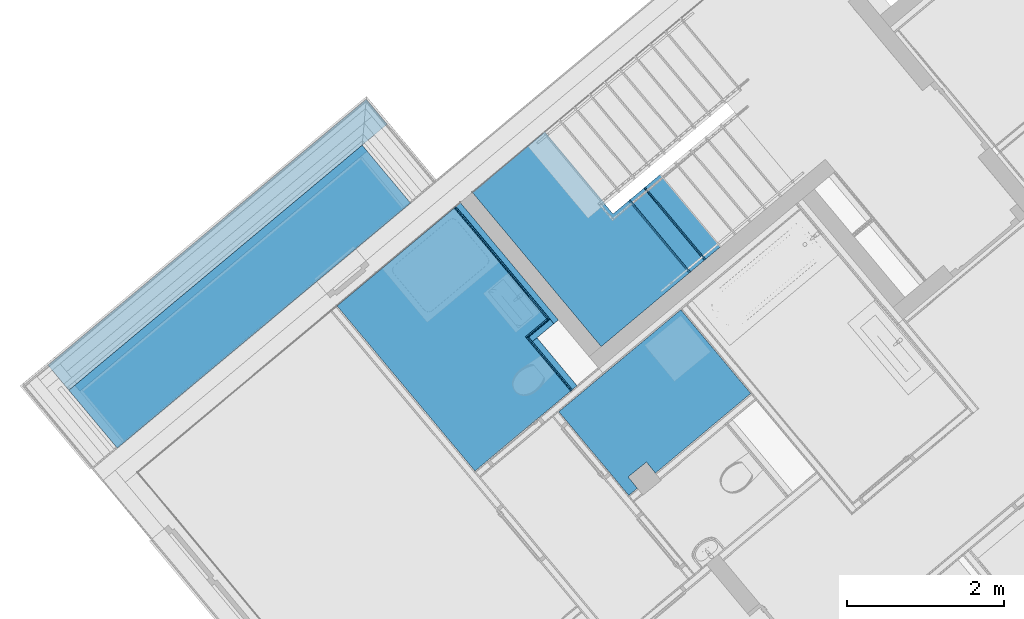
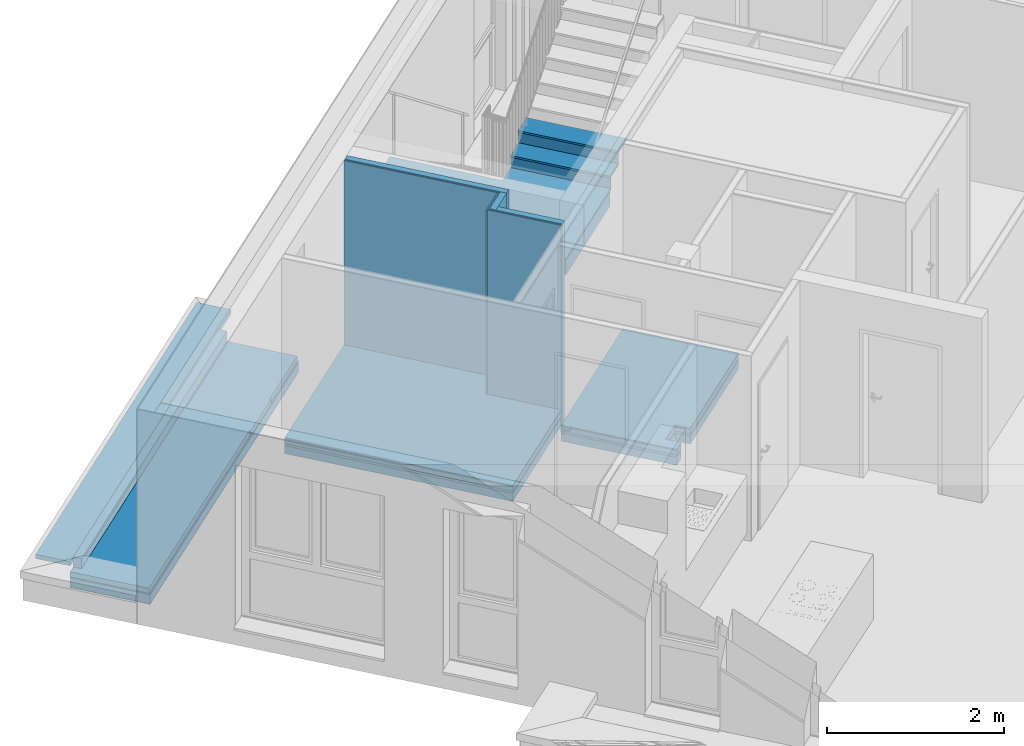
# One storey, part 26 of 61: 29 building element parts, 8 elements without a shape of their own.
"""IFC4 building model written with IfcOpenShell, lengths in metres."""

from ifc_helpers import new_model, entity, si_unit, converted_unit, derived_unit, direction, frame, origin_with_axes, place, context, subcontext, project, spatial, polygons, material, type_object, element, aggregate, save


model = new_model("IFC4")

# Units and contexts
model_context = context("Model", 3, precision=1e-05, world=origin_with_axes(), true_north=direction((0.0, 1.0)))
body_context = subcontext(model_context, "Body", "Model", "MODEL_VIEW")
ifc_project = project(units=[si_unit("LENGTHUNIT", "METRE"), si_unit("AREAUNIT", "SQUARE_METRE"), si_unit("VOLUMEUNIT", "CUBIC_METRE"), converted_unit("PLANEANGLEUNIT", "DEGREE", entity("IfcPlaneAngleMeasure", 0.0174532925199), si_unit("PLANEANGLEUNIT", "RADIAN"), dimensions=[0, 0, 0, 0, 0, 0, 0]), converted_unit("TIMEUNIT", "Year", entity("IfcTimeMeasure", 31556926.0), si_unit("TIMEUNIT", "SECOND"), dimensions=[0, 0, 1, 0, 0, 0, 0]), si_unit("MASSUNIT", "GRAM", prefix="KILO"), si_unit("THERMODYNAMICTEMPERATUREUNIT", "DEGREE_CELSIUS"), si_unit("LUMINOUSINTENSITYUNIT", "LUMEN"), si_unit("ENERGYUNIT", "JOULE", prefix="MEGA"), derived_unit("THERMALCONDUCTANCEUNIT", [(si_unit("POWERUNIT", "WATT"), 1), (si_unit("LENGTHUNIT", "METRE"), -1), (si_unit("THERMODYNAMICTEMPERATUREUNIT", "KELVIN"), -1)]), derived_unit("SPECIFICHEATCAPACITYUNIT", [(si_unit("ENERGYUNIT", "JOULE"), 1), (si_unit("MASSUNIT", "GRAM", prefix="KILO"), -1), (si_unit("THERMODYNAMICTEMPERATUREUNIT", "KELVIN"), -1)]), derived_unit("MASSDENSITYUNIT", [(si_unit("MASSUNIT", "GRAM", prefix="KILO"), 1), (si_unit("VOLUMEUNIT", "CUBIC_METRE"), -1)])], contexts=[model_context])

# Site, building, storey
site_placement = place(None, frame((-0.00153261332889, -0.00661245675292, 0.0), z_axis=(0.0, 0.0, 1.0), x_axis=(1.0, 0.0, 0.0)))
site = spatial("IfcSite", under=ifc_project, at=site_placement, Name="Gelände", CompositionType="ELEMENT")
building_placement = place(site_placement, origin_with_axes())
building = spatial("IfcBuilding", under=site, at=building_placement, Name="Gebäude", CompositionType="ELEMENT")
storey_placement = place(building_placement, frame((0.0, 0.0, 5.7), z_axis=(0.0, 0.0, 1.0), x_axis=(1.0, 0.0, 0.0)))
storey = spatial("IfcBuildingStorey", under=building, at=storey_placement, Name="DG1", CompositionType="ELEMENT", Elevation=5.7)

# Wall, building element parts
wall_type_1 = type_object("IfcWallType", Name="LB 10,5 cm doppelte Vorsatzschale Bad 105", PredefinedType="NOTDEFINED")
wall_1_placement = place(storey_placement, frame((-3.007781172, 20.6786353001, 0.0), z_axis=(0.0, 0.0, 1.0), x_axis=(0.641209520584, -0.767365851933, 0.0)))
wall_1 = element("IfcWall", 1, at=wall_1_placement, inside=storey, type_object=wall_type_1, Name="Wand-004", PredefinedType="NOTDEFINED")
ifc_material_1 = material(Name="Mineralwolle weich")
building_element_part_1_placement = place(wall_1_placement, origin_with_axes())
building_element_part_1 = element("IfcBuildingElementPart", 2, at=building_element_part_1_placement, material=ifc_material_1, Name="Mineralwolle weich", PredefinedType="NOTDEFINED", context=body_context, shape_type="Tessellation", body=[
    polygons([(0.795549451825, 0.0, 2.76), (0.0, 0.0, 2.76), (0.0, -0.075, 2.76), (0.795584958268, -0.075, 2.76), (0.795549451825, 0.0, 0.0), (0.0, 0.0, 0.0), (0.0, -0.075, 0.0), (0.795584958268, -0.075, 0.0)], [[[1, 2, 3, 4]], [[5, 6, 2, 1]], [[3, 2, 6, 7]], [[4, 3, 7, 8]], [[4, 8, 5, 1]], [[8, 7, 6, 5]]], closed=True),
])
ifc_material_2 = material(Name="Gipskarton")
building_element_part_2_placement = place(wall_1_placement, origin_with_axes())
building_element_part_2 = element("IfcBuildingElementPart", 3, at=building_element_part_2_placement, material=ifc_material_2, Name="Gipskarton", PredefinedType="NOTDEFINED", context=body_context, shape_type="Tessellation", body=[
    polygons([(0.795584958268, -0.075, 2.76), (-0.0750000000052, -0.075, 2.76), (-0.0750000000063, -0.09, 2.76), (0.795592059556, -0.09, 2.76), (0.795584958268, -0.075, 0.0), (-0.0750000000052, -0.075, 0.0), (-0.0750000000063, -0.09, 0.0), (0.795592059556, -0.09, 0.0)], [[[1, 2, 3, 4]], [[5, 6, 2, 1]], [[3, 2, 6, 7]], [[4, 3, 7, 8]], [[4, 8, 5, 1]], [[8, 7, 6, 5]]], closed=True),
])
building_element_part_3_placement = place(wall_1_placement, origin_with_axes())
building_element_part_3 = element("IfcBuildingElementPart", 4, at=building_element_part_3_placement, material=ifc_material_2, Name="Gipskarton", PredefinedType="NOTDEFINED", context=body_context, shape_type="Tessellation", body=[
    polygons([(0.795592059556, -0.09, 2.76), (-0.0900000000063, -0.09, 2.76), (-0.0900000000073, -0.105, 2.76), (0.795599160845, -0.105, 2.76), (0.795592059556, -0.09, 0.0), (-0.0900000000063, -0.09, 0.0), (-0.0900000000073, -0.105, 0.0), (0.795599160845, -0.105, 0.0)], [[[1, 2, 3, 4]], [[5, 6, 2, 1]], [[3, 2, 6, 7]], [[4, 3, 7, 8]], [[4, 8, 5, 1]], [[8, 7, 6, 5]]], closed=True),
])
aggregate(wall_1, [building_element_part_1, building_element_part_2, building_element_part_3])

wall_2_placement = place(storey_placement, frame((-2.73492476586, 20.9066336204, 0.0), z_axis=(0.0, 0.0, 1.0), x_axis=(-0.767365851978, -0.64120952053, 0.0)))
wall_2 = element("IfcWall", 5, at=wall_2_placement, inside=storey, type_object=wall_type_1, Name="Wand-004", PredefinedType="NOTDEFINED")
building_element_part_4_placement = place(wall_2_placement, origin_with_axes())
building_element_part_4 = element("IfcBuildingElementPart", 6, at=building_element_part_4_placement, material=ifc_material_1, Name="Mineralwolle weich", PredefinedType="NOTDEFINED", context=body_context, shape_type="Tessellation", body=[
    polygons([(0.430575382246, 0.0, 2.76), (0.075, 0.0, 2.76), (0.0750000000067, -0.075, 2.76), (0.430575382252, -0.075, 2.76), (0.430575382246, 0.0, 0.0), (0.075, 0.0, 0.0), (0.0750000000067, -0.075, 0.0), (0.430575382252, -0.075, 0.0)], [[[1, 2, 3, 4]], [[5, 6, 2, 1]], [[3, 2, 6, 7]], [[4, 3, 7, 8]], [[4, 8, 5, 1]], [[8, 7, 6, 5]]], closed=True),
])
building_element_part_5_placement = place(wall_2_placement, origin_with_axes())
building_element_part_5 = element("IfcBuildingElementPart", 7, at=building_element_part_5_placement, material=ifc_material_2, Name="Gipskarton", PredefinedType="NOTDEFINED", context=body_context, shape_type="Tessellation", body=[
    polygons([(0.445575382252, -0.075, 2.76), (0.0900000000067, -0.075, 2.76), (0.090000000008, -0.09, 2.76), (0.445575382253, -0.09, 2.76), (0.445575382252, -0.075, 0.0), (0.0900000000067, -0.075, 0.0), (0.090000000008, -0.09, 0.0), (0.445575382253, -0.09, 0.0)], [[[1, 2, 3, 4]], [[5, 6, 2, 1]], [[3, 2, 6, 7]], [[4, 3, 7, 8]], [[4, 8, 5, 1]], [[8, 7, 6, 5]]], closed=True),
])
building_element_part_6_placement = place(wall_2_placement, origin_with_axes())
building_element_part_6 = element("IfcBuildingElementPart", 8, at=building_element_part_6_placement, material=ifc_material_2, Name="Gipskarton", PredefinedType="NOTDEFINED", context=body_context, shape_type="Tessellation", body=[
    polygons([(0.460575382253, -0.09, 2.76), (0.105000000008, -0.09, 2.76), (0.105000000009, -0.105, 2.76), (0.460575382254, -0.105, 2.76), (0.460575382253, -0.09, 0.0), (0.105000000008, -0.09, 0.0), (0.105000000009, -0.105, 0.0), (0.460575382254, -0.105, 0.0)], [[[1, 2, 3, 4]], [[5, 6, 2, 1]], [[3, 2, 6, 7]], [[4, 3, 7, 8]], [[4, 8, 5, 1]], [[8, 7, 6, 5]]], closed=True),
])
aggregate(wall_2, [building_element_part_4, building_element_part_5, building_element_part_6])

wall_3_placement = place(storey_placement, frame((-4.2513787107, 22.721445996, 0.0), z_axis=(0.0, 0.0, 1.0), x_axis=(0.641209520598, -0.767365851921, 0.0)))
wall_3 = element("IfcWall", 9, at=wall_3_placement, inside=storey, type_object=wall_type_1, Name="Wand-004", PredefinedType="NOTDEFINED")
building_element_part_7_placement = place(wall_3_placement, origin_with_axes())
building_element_part_7 = element("IfcBuildingElementPart", 10, at=building_element_part_7_placement, material=ifc_material_1, Name="Mineralwolle weich", PredefinedType="NOTDEFINED", context=body_context, shape_type="Tessellation", body=[
    polygons([(2.3649897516, 0.0, 2.76), (0.419999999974, 0.0, 2.76), (0.419999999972, -0.075, 2.76), (2.3649897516, -0.075, 2.76), (2.3649897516, 0.0, 0.0), (0.419999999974, 0.0, 0.0), (0.419999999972, -0.075, 0.0), (2.3649897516, -0.075, 0.0)], [[[1, 2, 3, 4]], [[5, 6, 2, 1]], [[3, 2, 6, 7]], [[4, 3, 7, 8]], [[4, 8, 5, 1]], [[8, 7, 6, 5]]], closed=True),
])
building_element_part_8_placement = place(wall_3_placement, origin_with_axes())
building_element_part_8 = element("IfcBuildingElementPart", 11, at=building_element_part_8_placement, material=ifc_material_2, Name="Gipskarton", PredefinedType="NOTDEFINED", context=body_context, shape_type="Tessellation", body=[
    polygons([(2.2899897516, -0.075, 2.76), (0.419999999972, -0.075, 2.76), (0.419999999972, -0.09, 2.76), (2.2899897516, -0.09, 2.76), (2.2899897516, -0.075, 0.0), (0.419999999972, -0.075, 0.0), (0.419999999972, -0.09, 0.0), (2.2899897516, -0.09, 0.0)], [[[1, 2, 3, 4]], [[5, 6, 2, 1]], [[3, 2, 6, 7]], [[4, 3, 7, 8]], [[4, 8, 5, 1]], [[8, 7, 6, 5]]], closed=True),
])
building_element_part_9_placement = place(wall_3_placement, origin_with_axes())
building_element_part_9 = element("IfcBuildingElementPart", 12, at=building_element_part_9_placement, material=ifc_material_2, Name="Gipskarton", PredefinedType="NOTDEFINED", context=body_context, shape_type="Tessellation", body=[
    polygons([(2.2749897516, -0.09, 2.76), (0.419999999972, -0.09, 2.76), (0.419999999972, -0.105, 2.76), (2.27498975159, -0.105, 2.76), (2.2749897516, -0.09, 0.0), (0.419999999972, -0.09, 0.0), (0.419999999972, -0.105, 0.0), (2.27498975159, -0.105, 0.0)], [[[1, 2, 3, 4]], [[5, 6, 2, 1]], [[3, 2, 6, 7]], [[4, 3, 7, 8]], [[4, 8, 5, 1]], [[8, 7, 6, 5]]], closed=True),
])
aggregate(wall_3, [building_element_part_7, building_element_part_8, building_element_part_9])

# Space
space_placement = place(storey_placement, frame((0.280300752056, 22.6307267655, 0.22), z_axis=(0.0, 0.0, 1.0), x_axis=(-0.641244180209, 0.767336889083, 0.0)))
space = spatial("IfcSpace", under=storey, at=space_placement, CompositionType="ELEMENT", PredefinedType="NOTDEFINED")

# Stair, building element parts
stair_type = type_object("IfcStairType", Name="Treppentyp", PredefinedType="NOTDEFINED")
stair_placement = place(space_placement, frame((2.55980055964, -0.50704333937, -0.17), z_axis=(0.0, 0.0, 1.0), x_axis=(-0.641244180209, -0.767336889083, 0.0)))
stair = element("IfcStair", 13, at=stair_placement, inside=space, type_object=stair_type, Name="Treppe - 001", PredefinedType="NOTDEFINED")
ifc_material_3 = material(Name="Stahlbeton Decke")
building_element_part_10_placement = place(stair_placement, origin_with_axes())
building_element_part_10 = element("IfcBuildingElementPart", 14, at=building_element_part_10_placement, material=ifc_material_3, Name="Stahlbeton Decke", PredefinedType="NOTDEFINED", context=body_context, shape_type="Tessellation", body=[
    polygons([(-0.0995859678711, -3.41907180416, 1.54558823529), (-0.0995859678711, -3.41907180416, 1.74558823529), (-1.21798601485, -4.3536048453, 1.74558823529), (-1.21798601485, -4.3536048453, 1.54558823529), (-0.869037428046, -2.49823278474, 1.74558823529), (-0.869037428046, -2.49823278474, 1.54558823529), (-1.06659845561, -2.66331440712, 1.74558823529), (-1.16916165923, -2.5405721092, 1.74558823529), (-1.18404787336, -2.55300972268, 1.74558823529), (-1.95345217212, -1.63213131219, 1.74558823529), (-2.85949147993, -2.38913738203, 1.74558823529), (-2.85949147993, -2.38913738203, 1.54558823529), (-1.93419043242, -1.61603796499, 1.54558823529), (-1.16478618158, -2.53691636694, 1.54558823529), (-1.16916165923, -2.5405721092, 1.54558823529), (-1.06659845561, -2.66331440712, 1.54558823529), (-1.16916165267, -2.54057211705, 1.56852941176), (-1.18404787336, -2.55300972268, 1.56852941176), (-1.95345217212, -1.63213131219, 1.56852941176), (-1.93419043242, -1.61603796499, 1.56852941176), (-1.16478618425, -2.53691636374, 1.56852941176)], [[[1, 2, 3, 4]], [[5, 2, 1, 6]], [[2, 5, 7, 8, 9, 10, 11, 3]], [[3, 11, 12, 4]], [[6, 1, 4, 12, 13, 14, 15, 16]], [[5, 6, 16, 7]], [[8, 7, 16, 15, 17]], [[8, 17, 18, 9]], [[18, 19, 10, 9]], [[13, 12, 11, 10, 19, 20]], [[14, 13, 20, 21]], [[21, 17, 15, 14]], [[20, 19, 18, 17, 21]]], closed=True),
])
ifc_material_4 = material(Name="BEKLEIDUNG")
building_element_part_11_placement = place(stair_placement, origin_with_axes())
building_element_part_11 = element("IfcBuildingElementPart", 15, at=building_element_part_11_placement, material=ifc_material_4, Name="BEKLEIDUNG", PredefinedType="NOTDEFINED", context=body_context, shape_type="Tessellation", body=[
    polygons([(-0.0880754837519, -3.40945364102, 1.92264705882), (-0.0804018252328, -3.40304154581, 1.92264705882), (-0.849853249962, -2.48220252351, 1.92264705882), (-0.857526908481, -2.48861461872, 1.92264705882), (-0.0880754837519, -3.40945364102, 1.77058823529), (-0.0804018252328, -3.40304154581, 1.77058823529), (-0.849853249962, -2.48220252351, 1.77058823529), (-0.857526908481, -2.48861461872, 1.77058823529)], [[[1, 2, 3, 4]], [[1, 5, 6, 2]], [[2, 6, 7, 3]], [[4, 3, 7, 8]], [[5, 1, 4, 8]], [[6, 5, 8, 7]]], closed=True),
])
building_element_part_12_placement = place(stair_placement, origin_with_axes())
building_element_part_12 = element("IfcBuildingElementPart", 16, at=building_element_part_12_placement, material=ifc_material_4, Name="BEKLEIDUNG", PredefinedType="NOTDEFINED", context=body_context, shape_type="Tessellation", body=[
    polygons([(0.105063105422, -3.24806738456, 2.09970588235), (0.112736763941, -3.24165528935, 2.09970588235), (-0.656714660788, -2.32081626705, 2.09970588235), (-0.664388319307, -2.32722836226, 2.09970588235), (0.105063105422, -3.24806738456, 1.94764705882), (0.112736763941, -3.24165528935, 1.94764705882), (-0.656714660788, -2.32081626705, 1.94764705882), (-0.664388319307, -2.32722836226, 1.94764705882)], [[[1, 2, 3, 4]], [[1, 5, 6, 2]], [[2, 6, 7, 3]], [[4, 3, 7, 8]], [[5, 1, 4, 8]], [[6, 5, 8, 7]]], closed=True),
])
building_element_part_13_placement = place(stair_placement, origin_with_axes())
building_element_part_13 = element("IfcBuildingElementPart", 17, at=building_element_part_13_placement, material=ifc_material_4, Name="BEKLEIDUNG", PredefinedType="NOTDEFINED", context=body_context, shape_type="Tessellation", body=[
    polygons([(-2.85949147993, -2.38913737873, 1.74558823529), (-1.2179860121, -4.3536048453, 1.74558823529), (-1.2179860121, -4.3536048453, 1.77058823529), (-2.85949147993, -2.38913737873, 1.77058823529), (-1.93419043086, -1.6160379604, 1.74558823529), (-1.16478613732, -2.53691636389, 1.74558823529), (-1.16916165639, -2.54057210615, 1.74558823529), (-1.06659841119, -2.66331440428, 1.74558823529), (-1.06217597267, -2.65961903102, 1.74558823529), (-0.849853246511, -2.48220251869, 1.74558823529), (-0.080401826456, -3.40304153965, 1.74558823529), (-0.292724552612, -3.58045805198, 1.74558823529), (-0.292724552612, -3.58045805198, 1.77058823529), (-0.080401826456, -3.40304153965, 1.77058823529), (-0.849853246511, -2.48220251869, 1.77058823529), (-1.06217597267, -2.65961903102, 1.77058823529), (-1.06659841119, -2.66331440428, 1.77058823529), (-1.16916165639, -2.54057210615, 1.77058823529), (-1.16478613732, -2.53691636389, 1.77058823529), (-1.93419043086, -1.6160379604, 1.77058823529)], [[[1, 2, 3, 4]], [[1, 5, 6, 7, 8, 9, 10, 11, 12, 2]], [[2, 12, 13, 3]], [[4, 3, 13, 14, 15, 16, 17, 18, 19, 20]], [[5, 1, 4, 20]], [[6, 5, 20, 19]], [[7, 6, 19, 18]], [[8, 7, 18, 17]], [[9, 8, 17, 16]], [[10, 9, 16, 15]], [[11, 10, 15, 14]], [[12, 11, 14, 13]]], closed=True),
])
building_element_part_14_placement = place(stair_placement, origin_with_axes())
building_element_part_14 = element("IfcBuildingElementPart", 18, at=building_element_part_14_placement, material=ifc_material_4, Name="BEKLEIDUNG", PredefinedType="NOTDEFINED", context=body_context, shape_type="Tessellation", body=[
    polygons([(-0.869037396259, -2.49823276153, 1.92264705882), (-0.0995859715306, -3.41907178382, 1.92264705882), (-0.0995859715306, -3.41907178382, 1.94764705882), (-0.869037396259, -2.49823276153, 1.94764705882), (-0.656714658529, -2.32081626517, 1.92264705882), (0.112736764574, -3.24165528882, 1.92264705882), (0.112736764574, -3.24165528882, 1.94764705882), (-0.656714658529, -2.32081626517, 1.94764705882)], [[[1, 2, 3, 4]], [[1, 5, 6, 2]], [[2, 6, 7, 3]], [[4, 3, 7, 8]], [[5, 1, 4, 8]], [[6, 5, 8, 7]]], closed=True),
])
building_element_part_15_placement = place(stair_placement, origin_with_axes())
building_element_part_15 = element("IfcBuildingElementPart", 19, at=building_element_part_15_placement, material=ifc_material_4, Name="BEKLEIDUNG", PredefinedType="NOTDEFINED", context=body_context, shape_type="Tessellation", body=[
    polygons([(-0.675898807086, -2.33684650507, 2.09970588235), (0.093552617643, -3.25768552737, 2.09970588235), (0.093552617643, -3.25768552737, 2.12470588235), (-0.675898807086, -2.33684650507, 2.12470588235), (-0.463576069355, -2.15943000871, 2.09970588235), (0.305875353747, -3.08026903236, 2.09970588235), (0.305875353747, -3.08026903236, 2.12470588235), (-0.463576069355, -2.15943000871, 2.12470588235)], [[[1, 2, 3, 4]], [[1, 5, 6, 2]], [[2, 6, 7, 3]], [[4, 3, 7, 8]], [[5, 1, 4, 8]], [[6, 5, 8, 7]]], closed=True),
])
aggregate(stair, [building_element_part_10, building_element_part_11, building_element_part_12, building_element_part_13, building_element_part_14, building_element_part_15])

# Covering, building element parts
covering_type_1 = type_object("IfcCoveringType", Name="DE 01 Decke Wohnung/Wohnung Fließen 220", PredefinedType="NOTDEFINED")
covering_1_placement = place(storey_placement, frame((-4.06264411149, 22.3318253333, 0.22), z_axis=(0.0, 0.0, 1.0), x_axis=(1.0, 0.0, 0.0)))
covering_1 = element("IfcCovering", 20, at=covering_1_placement, inside=storey, type_object=covering_type_1, Name="Decke-004", PredefinedType="NOTDEFINED")
ifc_material_5 = material(Name="Fliesen")
building_element_part_16_placement = place(covering_1_placement, origin_with_axes())
building_element_part_16 = element("IfcBuildingElementPart", 21, at=building_element_part_16_placement, material=ifc_material_5, Name="Fliesen", PredefinedType="NOTDEFINED", context=body_context, shape_type="Tessellation", body=[
    polygons([(-1.49248991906, -1.24712185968, -0.015), (-1.49248991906, -1.24712185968, 0.0), (0.0, 0.0, 0.0), (0.0, 0.0, -0.015), (0.265284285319, -3.35073360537, -0.015), (0.265284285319, -3.35073360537, 0.0), (1.48443528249, -2.33103266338, 0.0), (0.906962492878, -1.63994360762, 0.0), (1.17981894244, -1.411945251, 0.0), (1.17981894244, -1.411945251, -0.015), (0.906962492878, -1.63994360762, -0.015), (1.48443528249, -2.33103266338, -0.015)], [[[1, 2, 3, 4]], [[5, 6, 2, 1]], [[3, 2, 6, 7, 8, 9]], [[4, 3, 9, 10]], [[4, 10, 11, 12, 5, 1]], [[12, 7, 6, 5]], [[11, 8, 7, 12]], [[10, 9, 8, 11]]], closed=True),
])
ifc_material_6 = material(Name="Estrich")
building_element_part_17_placement = place(covering_1_placement, origin_with_axes())
building_element_part_17 = element("IfcBuildingElementPart", 22, at=building_element_part_17_placement, material=ifc_material_6, Name="Estrich", PredefinedType="NOTDEFINED", context=body_context, shape_type="Tessellation", body=[
    polygons([(-1.49248991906, -1.24712185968, -0.08), (-1.49248991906, -1.24712185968, -0.015), (0.0, 0.0, -0.015), (0.0, 0.0, -0.08), (0.265284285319, -3.35073360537, -0.08), (0.265284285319, -3.35073360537, -0.015), (1.48443528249, -2.33103266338, -0.015), (0.906962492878, -1.63994360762, -0.015), (1.17981894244, -1.411945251, -0.015), (1.17981894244, -1.411945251, -0.08), (0.906962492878, -1.63994360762, -0.08), (1.48443528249, -2.33103266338, -0.08)], [[[1, 2, 3, 4]], [[5, 6, 2, 1]], [[3, 2, 6, 7, 8, 9]], [[4, 3, 9, 10]], [[4, 10, 11, 12, 5, 1]], [[12, 7, 6, 5]], [[11, 8, 7, 12]], [[10, 9, 8, 11]]], closed=True),
])
ifc_material_7 = material(Name="Trittschalldämmung")
building_element_part_18_placement = place(covering_1_placement, origin_with_axes())
building_element_part_18 = element("IfcBuildingElementPart", 23, at=building_element_part_18_placement, material=ifc_material_7, Name="Trittschalldämmung", PredefinedType="NOTDEFINED", context=body_context, shape_type="Tessellation", body=[
    polygons([(-1.49248991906, -1.24712185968, -0.11), (-1.49248991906, -1.24712185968, -0.08), (0.0, 0.0, -0.08), (0.0, 0.0, -0.11), (0.265284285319, -3.35073360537, -0.11), (0.265284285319, -3.35073360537, -0.08), (1.48443528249, -2.33103266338, -0.08), (0.906962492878, -1.63994360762, -0.08), (1.17981894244, -1.411945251, -0.08), (1.17981894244, -1.411945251, -0.11), (0.906962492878, -1.63994360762, -0.11), (1.48443528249, -2.33103266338, -0.11)], [[[1, 2, 3, 4]], [[5, 6, 2, 1]], [[3, 2, 6, 7, 8, 9]], [[4, 3, 9, 10]], [[4, 10, 11, 12, 5, 1]], [[12, 7, 6, 5]], [[11, 8, 7, 12]], [[10, 9, 8, 11]]], closed=True),
])
ifc_material_8 = material(Name="Schüttung")
building_element_part_19_placement = place(covering_1_placement, origin_with_axes())
building_element_part_19 = element("IfcBuildingElementPart", 24, at=building_element_part_19_placement, material=ifc_material_8, Name="Schüttung", PredefinedType="NOTDEFINED", context=body_context, shape_type="Tessellation", body=[
    polygons([(0.0, 0.0, -0.22), (-1.49248991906, -1.24712185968, -0.22), (-1.49248991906, -1.24712185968, -0.11), (0.0, 0.0, -0.11), (1.17981894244, -1.411945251, -0.22), (0.906962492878, -1.63994360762, -0.22), (1.48443528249, -2.33103266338, -0.22), (0.265284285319, -3.35073360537, -0.22), (0.265284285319, -3.35073360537, -0.11), (1.48443528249, -2.33103266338, -0.11), (0.906962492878, -1.63994360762, -0.11), (1.17981894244, -1.411945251, -0.11)], [[[1, 2, 3, 4]], [[1, 5, 6, 7, 8, 2]], [[2, 8, 9, 3]], [[4, 3, 9, 10, 11, 12]], [[5, 1, 4, 12]], [[6, 5, 12, 11]], [[7, 6, 11, 10]], [[8, 7, 10, 9]]], closed=True),
])
aggregate(covering_1, [building_element_part_16, building_element_part_17, building_element_part_18, building_element_part_19])

covering_2_placement = place(storey_placement, frame((-2.72972930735, 19.7371746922, 0.22), z_axis=(0.0, 0.0, 1.0), x_axis=(1.0, 0.0, 0.0)))
covering_2 = element("IfcCovering", 25, at=covering_2_placement, inside=storey, type_object=covering_type_1, Name="Decke-003", PredefinedType="NOTDEFINED")
building_element_part_20_placement = place(covering_2_placement, origin_with_axes())
building_element_part_20 = element("IfcBuildingElementPart", 26, at=building_element_part_20_placement, material=ifc_material_5, Name="Fliesen", PredefinedType="NOTDEFINED", context=body_context, shape_type="Tessellation", body=[
    polygons([(0.89117400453, -1.06651021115, -0.015), (0.89117400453, -1.06651021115, 0.0), (0.0, 0.0, 0.0), (0.0, 0.0, -0.015), (1.00072286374, -0.974971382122, -0.015), (1.00072286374, -0.974971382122, 0.0), (0.883663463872, -0.830548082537, 0.0), (1.11672221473, -0.641647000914, 0.0), (1.2309583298, -0.782587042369, 0.0), (2.44582096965, 0.232549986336, 0.0), (1.55442053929, 1.29933116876, 0.0), (1.55442053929, 1.29933116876, -0.015), (2.44582096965, 0.232549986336, -0.015), (1.2309583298, -0.782587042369, -0.015), (1.11672221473, -0.641647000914, -0.015), (0.883663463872, -0.830548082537, -0.015)], [[[1, 2, 3, 4]], [[5, 6, 2, 1]], [[3, 2, 6, 7, 8, 9, 10, 11]], [[4, 3, 11, 12]], [[4, 12, 13, 14, 15, 16, 5, 1]], [[16, 7, 6, 5]], [[15, 8, 7, 16]], [[14, 9, 8, 15]], [[13, 10, 9, 14]], [[12, 11, 10, 13]]], closed=True),
])
building_element_part_21_placement = place(covering_2_placement, origin_with_axes())
building_element_part_21 = element("IfcBuildingElementPart", 27, at=building_element_part_21_placement, material=ifc_material_6, Name="Estrich", PredefinedType="NOTDEFINED", context=body_context, shape_type="Tessellation", body=[
    polygons([(0.89117400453, -1.06651021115, -0.08), (0.89117400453, -1.06651021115, -0.015), (0.0, 0.0, -0.015), (0.0, 0.0, -0.08), (1.00072286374, -0.974971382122, -0.08), (1.00072286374, -0.974971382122, -0.015), (0.883663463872, -0.830548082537, -0.015), (1.11672221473, -0.641647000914, -0.015), (1.2309583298, -0.782587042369, -0.015), (2.44582096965, 0.232549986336, -0.015), (1.55442053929, 1.29933116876, -0.015), (1.55442053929, 1.29933116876, -0.08), (2.44582096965, 0.232549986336, -0.08), (1.2309583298, -0.782587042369, -0.08), (1.11672221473, -0.641647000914, -0.08), (0.883663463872, -0.830548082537, -0.08)], [[[1, 2, 3, 4]], [[5, 6, 2, 1]], [[3, 2, 6, 7, 8, 9, 10, 11]], [[4, 3, 11, 12]], [[4, 12, 13, 14, 15, 16, 5, 1]], [[16, 7, 6, 5]], [[15, 8, 7, 16]], [[14, 9, 8, 15]], [[13, 10, 9, 14]], [[12, 11, 10, 13]]], closed=True),
])
building_element_part_22_placement = place(covering_2_placement, origin_with_axes())
building_element_part_22 = element("IfcBuildingElementPart", 28, at=building_element_part_22_placement, material=ifc_material_7, Name="Trittschalldämmung", PredefinedType="NOTDEFINED", context=body_context, shape_type="Tessellation", body=[
    polygons([(0.89117400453, -1.06651021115, -0.11), (0.89117400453, -1.06651021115, -0.08), (0.0, 0.0, -0.08), (0.0, 0.0, -0.11), (1.00072286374, -0.974971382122, -0.11), (1.00072286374, -0.974971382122, -0.08), (0.883663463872, -0.830548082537, -0.08), (1.11672221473, -0.641647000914, -0.08), (1.2309583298, -0.782587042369, -0.08), (2.44582096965, 0.232549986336, -0.08), (1.55442053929, 1.29933116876, -0.08), (1.55442053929, 1.29933116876, -0.11), (2.44582096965, 0.232549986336, -0.11), (1.2309583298, -0.782587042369, -0.11), (1.11672221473, -0.641647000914, -0.11), (0.883663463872, -0.830548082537, -0.11)], [[[1, 2, 3, 4]], [[5, 6, 2, 1]], [[3, 2, 6, 7, 8, 9, 10, 11]], [[4, 3, 11, 12]], [[4, 12, 13, 14, 15, 16, 5, 1]], [[16, 7, 6, 5]], [[15, 8, 7, 16]], [[14, 9, 8, 15]], [[13, 10, 9, 14]], [[12, 11, 10, 13]]], closed=True),
])
building_element_part_23_placement = place(covering_2_placement, origin_with_axes())
building_element_part_23 = element("IfcBuildingElementPart", 29, at=building_element_part_23_placement, material=ifc_material_8, Name="Schüttung", PredefinedType="NOTDEFINED", context=body_context, shape_type="Tessellation", body=[
    polygons([(0.0, 0.0, -0.22), (0.89117400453, -1.06651021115, -0.22), (0.89117400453, -1.06651021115, -0.11), (0.0, 0.0, -0.11), (1.55442053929, 1.29933116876, -0.22), (2.44582096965, 0.232549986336, -0.22), (1.2309583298, -0.782587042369, -0.22), (1.11672221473, -0.641647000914, -0.22), (0.883663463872, -0.830548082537, -0.22), (1.00072286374, -0.974971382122, -0.22), (1.00072286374, -0.974971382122, -0.11), (0.883663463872, -0.830548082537, -0.11), (1.11672221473, -0.641647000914, -0.11), (1.2309583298, -0.782587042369, -0.11), (2.44582096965, 0.232549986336, -0.11), (1.55442053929, 1.29933116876, -0.11)], [[[1, 2, 3, 4]], [[1, 5, 6, 7, 8, 9, 10, 2]], [[2, 10, 11, 3]], [[4, 3, 11, 12, 13, 14, 15, 16]], [[5, 1, 4, 16]], [[6, 5, 16, 15]], [[7, 6, 15, 14]], [[8, 7, 14, 13]], [[9, 8, 13, 12]], [[10, 9, 12, 11]]], closed=True),
])
aggregate(covering_2, [building_element_part_20, building_element_part_21, building_element_part_22, building_element_part_23])

# Wall, building element parts
wall_type_2 = type_object("IfcWallType", Name="Bauteil - Attika Terrasse 1.DG 574 x 410", PredefinedType="NOTDEFINED")
wall_4_placement = place(storey_placement, frame((-9.25321199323, 20.0359436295, -0.2), z_axis=(0.0, 0.0, 1.0), x_axis=(0.767368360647, 0.641206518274, 0.0)))
wall_4 = element("IfcWall", 30, at=wall_4_placement, inside=storey, type_object=wall_type_2, Name="Wand-004", PredefinedType="NOTDEFINED")
ifc_material_9 = material(Name="Brettschichtholz")
building_element_part_24_placement = place(wall_4_placement, origin_with_axes())
building_element_part_24 = element("IfcBuildingElementPart", 31, at=building_element_part_24_placement, material=ifc_material_9, Name="Brettschichtholz", PredefinedType="NOTDEFINED", context=body_context, shape_type="Tessellation", body=[
    polygons([(5.48474668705, -0.200000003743, 0.519224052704), (5.48474670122, -0.200000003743, 0.559999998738), (0.200000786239, -0.200000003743, 0.559999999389), (0.200000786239, -0.200000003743, 0.519224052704), (0.200000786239, -0.200000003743, 0.511361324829), (0.200000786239, -0.200000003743, 0.50905023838), (0.200000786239, -0.200000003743, 0.500000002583), (5.48474668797, -0.200000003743, 0.499999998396), (5.48474668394, -0.200000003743, 0.50905023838), (5.48474668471, -0.200000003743, 0.511361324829), (5.48474654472, -0.159999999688, 0.559999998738), (5.48474506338, 0.214999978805, 0.519224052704), (5.48474507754, 0.214999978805, 0.559999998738), (5.48474517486, 0.190124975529, 0.559999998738), (5.48474540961, 0.130124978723, 0.559999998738), (5.48474630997, -0.100000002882, 0.559999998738), (0.20000062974, -0.159999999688, 0.559999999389), (0.200000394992, -0.100000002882, 0.559999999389), (0.199999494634, 0.130124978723, 0.559999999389), (0.199999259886, 0.190124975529, 0.559999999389), (0.199999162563, 0.214999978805, 0.559999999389), (0.199999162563, 0.214999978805, 0.519224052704), (0.199999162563, 0.214999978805, 0.511361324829), (0.199999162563, 0.214999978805, 0.50905023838), (0.199999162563, 0.214999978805, 0.500000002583), (5.48474506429, 0.214999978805, 0.499999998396), (5.48474506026, 0.214999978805, 0.50905023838), (5.48474506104, 0.214999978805, 0.511361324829)], [[[1, 2, 3, 4, 5, 6, 7, 8, 9, 10]], [[11, 2, 1, 12, 13, 14, 15, 16]], [[2, 11, 17, 3]], [[4, 3, 17, 18, 19, 20, 21, 22]], [[4, 22, 23, 5]], [[5, 23, 24, 6]], [[6, 24, 25, 7]], [[7, 25, 26, 8]], [[27, 9, 8, 26]], [[28, 10, 9, 27]], [[12, 1, 10, 28]], [[13, 12, 28, 27, 26, 25, 24, 23, 22, 21]], [[14, 13, 21, 20]], [[15, 14, 20, 19]], [[16, 15, 19, 18]], [[11, 16, 18, 17]]], closed=True),
])
ifc_material_10 = material(Name="EPS 1")
building_element_part_25_placement = place(wall_4_placement, origin_with_axes())
building_element_part_25 = element("IfcBuildingElementPart", 32, at=building_element_part_25_placement, material=ifc_material_10, Name="EPS 1", PredefinedType="NOTDEFINED", context=body_context, shape_type="Tessellation", body=[
    polygons([(5.06974710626, -0.3, 0.519224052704), (5.06974710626, -0.3, 0.559999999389), (0.300001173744, -0.3, 0.560000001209), (0.300001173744, -0.3, 0.519224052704), (0.300001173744, -0.3, 0.511361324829), (0.300001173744, -0.3, 0.50905023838), (0.300001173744, -0.3, 0.499999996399), (0.300001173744, -0.3, 0.498822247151), (0.300001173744, -0.3, 0.49100648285), (0.300001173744, -0.3, 0.488695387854), (0.300001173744, -0.3, 0.335), (5.06974711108, -0.3, 0.335), (5.06974711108, -0.3, 0.488695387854), (5.06974711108, -0.3, 0.49100648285), (5.06974711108, -0.3, 0.498822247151), (5.06974710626, -0.3, 0.500000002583), (5.06974710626, -0.3, 0.50905023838), (5.06974710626, -0.3, 0.511361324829), (5.06974671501, -0.2, 0.559999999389), (5.06974671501, -0.2, 0.519224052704), (0.300000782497, -0.2, 0.560000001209), (0.300000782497, -0.2, 0.519224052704), (0.300000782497, -0.2, 0.511361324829), (0.300000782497, -0.2, 0.50905023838), (0.300000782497, -0.2, 0.499999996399), (0.300000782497, -0.2, 0.498822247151), (0.300000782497, -0.2, 0.49100648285), (0.300000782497, -0.2, 0.488695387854), (0.300000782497, -0.2, 0.335), (5.06974671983, -0.2, 0.335), (5.06974671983, -0.2, 0.488695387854), (5.06974671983, -0.2, 0.49100648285), (5.06974671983, -0.2, 0.498822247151), (5.06974671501, -0.2, 0.500000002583), (5.06974671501, -0.2, 0.50905023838), (5.06974671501, -0.2, 0.511361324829)], [[[1, 2, 3, 4, 5, 6, 7, 8, 9, 10, 11, 12, 13, 14, 15, 16, 17, 18]], [[19, 2, 1, 20]], [[2, 19, 21, 3]], [[4, 3, 21, 22]], [[4, 22, 23, 5]], [[5, 23, 24, 6]], [[6, 24, 25, 7]], [[7, 25, 26, 8]], [[8, 26, 27, 9]], [[9, 27, 28, 10]], [[10, 28, 29, 11]], [[30, 12, 11, 29]], [[31, 13, 12, 30]], [[32, 14, 13, 31]], [[33, 15, 14, 32]], [[34, 16, 15, 33]], [[35, 17, 16, 34]], [[36, 18, 17, 35]], [[20, 1, 18, 36]], [[19, 20, 36, 35, 34, 33, 32, 31, 30, 29, 28, 27, 26, 25, 24, 23, 22, 21]]], closed=True),
])
aggregate(wall_4, [building_element_part_24, building_element_part_25])

# Covering, building element parts
covering_type_2 = type_object("IfcCoveringType", Name="Balkon vor Terrasse Kies 220", PredefinedType="NOTDEFINED")
covering_3_placement = place(storey_placement, frame((-8.35499941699, 19.2729205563, 0.0), z_axis=(0.0, 0.0, 1.0), x_axis=(1.0, 0.0, 0.0)))
covering_3 = element("IfcCovering", 33, at=covering_3_placement, inside=storey, type_object=covering_type_2, Name="Decke-005", PredefinedType="NOTDEFINED")
ifc_material_11 = material(Name="Kies")
building_element_part_26_placement = place(covering_3_placement, origin_with_axes())
building_element_part_26 = element("IfcBuildingElementPart", 34, at=building_element_part_26_placement, material=ifc_material_11, Name="Kies", PredefinedType="NOTDEFINED", context=body_context, shape_type="Tessellation", body=[
    polygons([(3.03896332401, 2.53935226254, 0.22), (3.0293451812, 2.55086275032, 0.22), (3.72725528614, 3.13403517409, 0.22), (3.12039137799, 3.86030356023, 0.22), (-0.616497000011, 0.737791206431, 0.22), (-0.00961814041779, 0.011510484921, 0.22), (2.53055737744, 2.13407656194, 0.22), (2.54017552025, 2.12256607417, 0.22), (3.03896332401, 2.53935226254, 0.15), (3.0293451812, 2.55086275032, 0.15), (3.72725528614, 3.13403517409, 0.15), (3.12039137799, 3.86030356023, 0.15), (-0.616497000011, 0.737791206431, 0.15), (-0.00961814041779, 0.011510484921, 0.15), (2.53055737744, 2.13407656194, 0.15), (2.54017552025, 2.12256607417, 0.15)], [[[1, 2, 3, 4, 5, 6, 7, 8]], [[2, 1, 9, 10]], [[11, 3, 2, 10]], [[3, 11, 12, 4]], [[12, 13, 5, 4]], [[14, 6, 5, 13]], [[7, 6, 14, 15]], [[16, 8, 7, 15]], [[9, 1, 8, 16]], [[10, 9, 16, 15, 14, 13, 12, 11]]], closed=True),
])
ifc_material_12 = material(Name="Sperrschicht")
building_element_part_27_placement = place(covering_3_placement, origin_with_axes())
building_element_part_27 = element("IfcBuildingElementPart", 35, at=building_element_part_27_placement, material=ifc_material_12, Name="Sperrschicht", PredefinedType="NOTDEFINED", context=body_context, shape_type="Tessellation", body=[
    polygons([(3.73687338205, 3.12252465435, 0.135), (3.73687338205, 3.12252465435, 0.15), (0.0, 0.0, 0.15), (0.0, 0.0, 0.135), (3.12039137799, 3.86030356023, 0.135), (3.12039137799, 3.86030356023, 0.15), (-0.616497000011, 0.737791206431, 0.15), (-0.616497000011, 0.737791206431, 0.135)], [[[1, 2, 3, 4]], [[5, 6, 2, 1]], [[3, 2, 6, 7]], [[4, 3, 7, 8]], [[4, 8, 5, 1]], [[8, 7, 6, 5]]], closed=True),
])
ifc_material_13 = material(Name="XPS")
building_element_part_28_placement = place(covering_3_placement, origin_with_axes())
building_element_part_28 = element("IfcBuildingElementPart", 36, at=building_element_part_28_placement, material=ifc_material_13, Name="XPS", PredefinedType="NOTDEFINED", context=body_context, shape_type="Tessellation", body=[
    polygons([(3.73687338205, 3.12252465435, 0.005), (3.73687338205, 3.12252465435, 0.135), (0.0, 0.0, 0.135), (0.0, 0.0, 0.005), (3.12039137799, 3.86030356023, 0.005), (3.12039137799, 3.86030356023, 0.135), (-0.616497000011, 0.737791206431, 0.135), (-0.616497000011, 0.737791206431, 0.005)], [[[1, 2, 3, 4]], [[5, 6, 2, 1]], [[3, 2, 6, 7]], [[4, 3, 7, 8]], [[4, 8, 5, 1]], [[8, 7, 6, 5]]], closed=True),
])
building_element_part_29_placement = place(covering_3_placement, origin_with_axes())
building_element_part_29 = element("IfcBuildingElementPart", 37, at=building_element_part_29_placement, material=ifc_material_12, Name="Sperrschicht", PredefinedType="NOTDEFINED", context=body_context, shape_type="Tessellation", body=[
    polygons([(0.0, 0.0, 0.0), (3.73687338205, 3.12252465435, 0.0), (3.73687338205, 3.12252465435, 0.005), (0.0, 0.0, 0.005), (-0.616497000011, 0.737791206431, 0.0), (3.12039137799, 3.86030356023, 0.0), (3.12039137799, 3.86030356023, 0.005), (-0.616497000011, 0.737791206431, 0.005)], [[[1, 2, 3, 4]], [[1, 5, 6, 2]], [[2, 6, 7, 3]], [[4, 3, 7, 8]], [[5, 1, 4, 8]], [[6, 5, 8, 7]]], closed=True),
])
aggregate(covering_3, [building_element_part_26, building_element_part_27, building_element_part_28, building_element_part_29])

save(model, "model.ifc")
